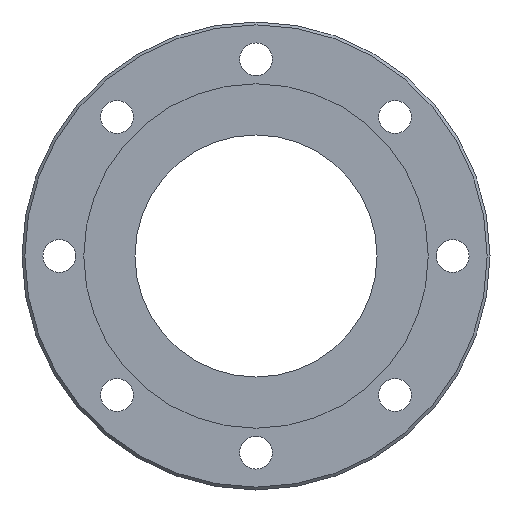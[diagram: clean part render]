
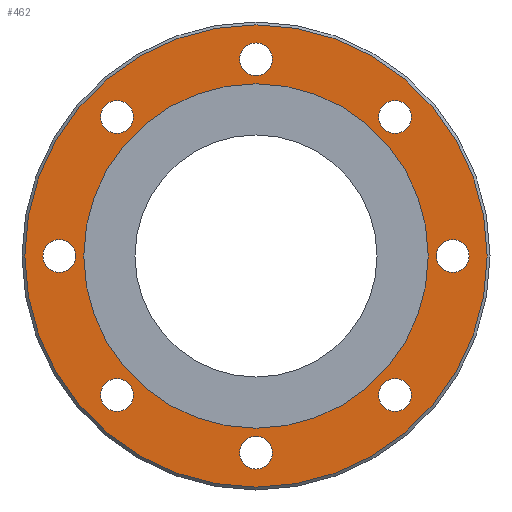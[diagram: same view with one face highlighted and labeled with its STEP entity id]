
A CAD part, left-side view. The second image highlights one B-rep face of the part: STEP entity #462.
In plain terms, the highlighted planar face has unit normal (-1, 0, 0).
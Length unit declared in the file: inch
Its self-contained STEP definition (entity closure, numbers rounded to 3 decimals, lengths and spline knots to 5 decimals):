
#15=FACE_BOUND('',#83,.T.);
#16=FACE_BOUND('',#84,.T.);
#17=FACE_BOUND('',#85,.T.);
#18=FACE_BOUND('',#86,.T.);
#19=FACE_BOUND('',#87,.T.);
#20=FACE_BOUND('',#88,.T.);
#21=FACE_BOUND('',#89,.T.);
#22=FACE_BOUND('',#90,.T.);
#23=FACE_BOUND('',#91,.T.);
#37=PLANE('',#510);
#59=FACE_OUTER_BOUND('',#82,.T.);
#82=EDGE_LOOP('',(#321));
#83=EDGE_LOOP('',(#322,#323));
#84=EDGE_LOOP('',(#324));
#85=EDGE_LOOP('',(#325));
#86=EDGE_LOOP('',(#326));
#87=EDGE_LOOP('',(#327));
#88=EDGE_LOOP('',(#328));
#89=EDGE_LOOP('',(#329));
#90=EDGE_LOOP('',(#330));
#91=EDGE_LOOP('',(#331));
#157=CIRCLE('',#504,4.861);
#162=CIRCLE('',#511,3.622);
#163=CIRCLE('',#512,3.622);
#164=CIRCLE('',#513,0.345);
#165=CIRCLE('',#514,0.345);
#166=CIRCLE('',#515,0.345);
#167=CIRCLE('',#516,0.345);
#168=CIRCLE('',#517,0.345);
#169=CIRCLE('',#518,0.345);
#170=CIRCLE('',#519,0.345);
#171=CIRCLE('',#520,0.345);
#203=VERTEX_POINT('',#730);
#208=VERTEX_POINT('',#744);
#209=VERTEX_POINT('',#745);
#210=VERTEX_POINT('',#748);
#211=VERTEX_POINT('',#750);
#212=VERTEX_POINT('',#752);
#213=VERTEX_POINT('',#754);
#214=VERTEX_POINT('',#756);
#215=VERTEX_POINT('',#758);
#216=VERTEX_POINT('',#760);
#217=VERTEX_POINT('',#762);
#248=EDGE_CURVE('',#203,#203,#157,.T.);
#255=EDGE_CURVE('',#208,#209,#162,.T.);
#256=EDGE_CURVE('',#209,#208,#163,.T.);
#257=EDGE_CURVE('',#210,#210,#164,.T.);
#258=EDGE_CURVE('',#211,#211,#165,.T.);
#259=EDGE_CURVE('',#212,#212,#166,.T.);
#260=EDGE_CURVE('',#213,#213,#167,.T.);
#261=EDGE_CURVE('',#214,#214,#168,.T.);
#262=EDGE_CURVE('',#215,#215,#169,.T.);
#263=EDGE_CURVE('',#216,#216,#170,.T.);
#264=EDGE_CURVE('',#217,#217,#171,.T.);
#321=ORIENTED_EDGE('',*,*,#248,.F.);
#322=ORIENTED_EDGE('',*,*,#255,.F.);
#323=ORIENTED_EDGE('',*,*,#256,.F.);
#324=ORIENTED_EDGE('',*,*,#257,.T.);
#325=ORIENTED_EDGE('',*,*,#258,.T.);
#326=ORIENTED_EDGE('',*,*,#259,.T.);
#327=ORIENTED_EDGE('',*,*,#260,.T.);
#328=ORIENTED_EDGE('',*,*,#261,.T.);
#329=ORIENTED_EDGE('',*,*,#262,.T.);
#330=ORIENTED_EDGE('',*,*,#263,.T.);
#331=ORIENTED_EDGE('',*,*,#264,.T.);
#462=ADVANCED_FACE('',(#59,#15,#16,#17,#18,#19,#20,#21,#22,#23),#37,.T.);
#504=AXIS2_PLACEMENT_3D('',#731,#576,#577);
#510=AXIS2_PLACEMENT_3D('',#743,#590,#591);
#511=AXIS2_PLACEMENT_3D('',#746,#592,#593);
#512=AXIS2_PLACEMENT_3D('',#747,#594,#595);
#513=AXIS2_PLACEMENT_3D('',#749,#596,#597);
#514=AXIS2_PLACEMENT_3D('',#751,#598,#599);
#515=AXIS2_PLACEMENT_3D('',#753,#600,#601);
#516=AXIS2_PLACEMENT_3D('',#755,#602,#603);
#517=AXIS2_PLACEMENT_3D('',#757,#604,#605);
#518=AXIS2_PLACEMENT_3D('',#759,#606,#607);
#519=AXIS2_PLACEMENT_3D('',#761,#608,#609);
#520=AXIS2_PLACEMENT_3D('',#763,#610,#611);
#576=DIRECTION('center_axis',(1.,0.,0.));
#577=DIRECTION('ref_axis',(0.,-1.,0.));
#590=DIRECTION('center_axis',(-1.,0.,0.));
#591=DIRECTION('ref_axis',(0.,0.,1.));
#592=DIRECTION('center_axis',(-1.,0.,0.));
#593=DIRECTION('ref_axis',(0.,0.,1.));
#594=DIRECTION('center_axis',(-1.,0.,0.));
#595=DIRECTION('ref_axis',(0.,0.,1.));
#596=DIRECTION('center_axis',(1.,0.,0.));
#597=DIRECTION('ref_axis',(0.,0.,-1.));
#598=DIRECTION('center_axis',(1.,0.,0.));
#599=DIRECTION('ref_axis',(0.,-0.707,-0.707));
#600=DIRECTION('center_axis',(1.,0.,0.));
#601=DIRECTION('ref_axis',(0.,-1.,0.));
#602=DIRECTION('center_axis',(1.,0.,0.));
#603=DIRECTION('ref_axis',(0.,-0.707,0.707));
#604=DIRECTION('center_axis',(1.,0.,0.));
#605=DIRECTION('ref_axis',(0.,0.,
1.));
#606=DIRECTION('center_axis',(1.,0.,0.));
#607=DIRECTION('ref_axis',(0.,0.707,0.707));
#608=DIRECTION('center_axis',(1.,0.,0.));
#609=DIRECTION('ref_axis',(0.,1.,0.));
#610=DIRECTION('center_axis',(1.,0.,0.));
#611=DIRECTION('ref_axis',(0.,0.707,-0.707));
#730=CARTESIAN_POINT('',(-2.642,4.861,0.));
#731=CARTESIAN_POINT('Origin',(-2.642,0.,0.));
#743=CARTESIAN_POINT('Origin',(-2.642,3.622,0.));
#744=CARTESIAN_POINT('',(-2.642,3.622,0.));
#745=CARTESIAN_POINT('',(-2.642,-3.622,0.));
#746=CARTESIAN_POINT('Origin',(-2.642,0.,0.));
#747=CARTESIAN_POINT('Origin',(-2.642,0.,0.));
#748=CARTESIAN_POINT('',(-2.642,0.,4.48));
#749=CARTESIAN_POINT('Origin',(-2.642,0.,4.135));
#750=CARTESIAN_POINT('',(-2.642,3.16784,3.16784));
#751=CARTESIAN_POINT('Origin',(-2.642,2.92389,2.92389));
#752=CARTESIAN_POINT('',(-2.642,4.48,0.));
#753=CARTESIAN_POINT('Origin',(-2.642,4.135,0.));
#754=CARTESIAN_POINT('',(-2.642,3.16784,-3.16784));
#755=CARTESIAN_POINT('Origin',(-2.642,2.92389,-2.92389));
#756=CARTESIAN_POINT('',(-2.642,0.,-4.48));
#757=CARTESIAN_POINT('Origin',(-2.642,0.,-4.135));
#758=CARTESIAN_POINT('',(-2.642,-3.16784,-3.16784));
#759=CARTESIAN_POINT('Origin',(-2.642,-2.92389,-2.92389));
#760=CARTESIAN_POINT('',(-2.642,-4.48,0.));
#761=CARTESIAN_POINT('Origin',(-2.642,-4.135,0.));
#762=CARTESIAN_POINT('',(-2.642,-3.16784,3.16784));
#763=CARTESIAN_POINT('Origin',(-2.642,-2.92389,2.92389));
